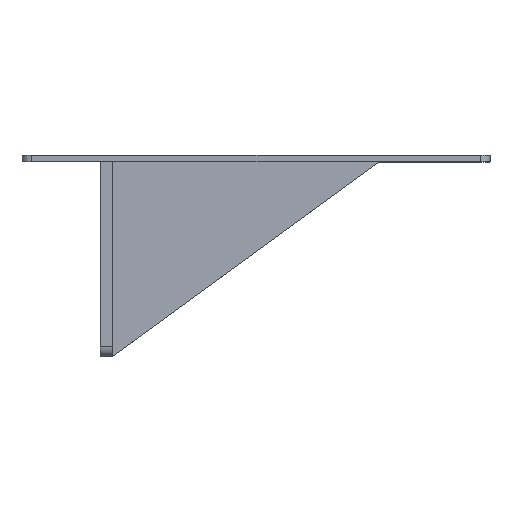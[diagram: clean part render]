
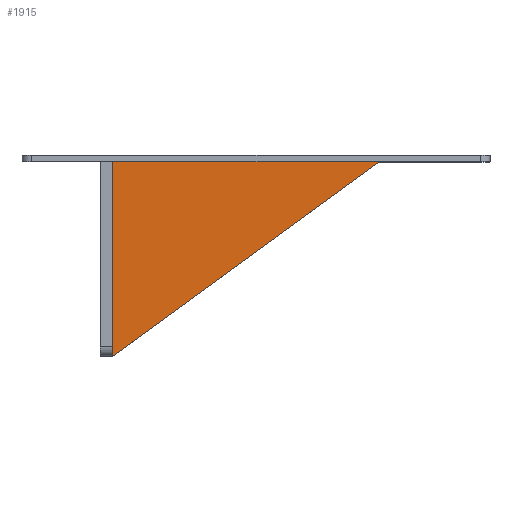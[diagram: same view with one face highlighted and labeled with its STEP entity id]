
A CAD part, top view. The second image highlights one B-rep face of the part: STEP entity #1915.
In plain terms, the highlighted planar face has unit normal (0, 0, 1).
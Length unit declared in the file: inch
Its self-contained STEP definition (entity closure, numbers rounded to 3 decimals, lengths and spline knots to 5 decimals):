
#178 = EDGE_CURVE ( 'NONE', #1416, #1254, #3228, .T. ) ;
#490 = DIRECTION ( 'NONE',  ( 0., 0., 1. ) ) ;
#570 = AXIS2_PLACEMENT_3D ( 'NONE', #1252, #490, #3270 ) ;
#678 = ORIENTED_EDGE ( 'NONE', *, *, #178, .T. ) ;
#772 = DIRECTION ( 'NONE',  ( 0.808, 0.59, 0. ) ) ;
#1000 = VECTOR ( 'NONE', #772, 39.37008 ) ;
#1011 = CARTESIAN_POINT ( 'NONE',  ( 0., -3.93701, 0.0625 ) ) ;
#1035 = CARTESIAN_POINT ( 'NONE',  ( 0., -3.93701, 0.0625 ) ) ;
#1051 = VECTOR ( 'NONE', #2074, 39.37008 ) ;
#1080 = CARTESIAN_POINT ( 'NONE',  ( 5.3937, 0., 0.0625 ) ) ;
#1226 = EDGE_CURVE ( 'NONE', #1254, #1570, #1451, .T. ) ;
#1252 = CARTESIAN_POINT ( 'NONE',  ( 0., 0., 0.0625 ) ) ;
#1254 = VERTEX_POINT ( 'NONE', #1011 ) ;
#1416 = VERTEX_POINT ( 'NONE', #3377 ) ;
#1451 = LINE ( 'NONE', #1035, #1000 ) ;
#1453 = LINE ( 'NONE', #2673, #2527 ) ;
#1570 = VERTEX_POINT ( 'NONE', #1080 ) ;
#1687 = CARTESIAN_POINT ( 'NONE',  ( 0., 0., 0.0625 ) ) ;
#1915 = ADVANCED_FACE ( 'NONE', ( #2755 ), #1976, .T. ) ;
#1976 = PLANE ( 'NONE',  #570 ) ;
#2074 = DIRECTION ( 'NONE',  ( 0., -1., 0. ) ) ;
#2527 = VECTOR ( 'NONE', #3145, 39.37008 ) ;
#2606 = ORIENTED_EDGE ( 'NONE', *, *, #1226, .T. ) ;
#2673 = CARTESIAN_POINT ( 'NONE',  ( 0., 0., 0.0625 ) ) ;
#2755 = FACE_OUTER_BOUND ( 'NONE', #3074, .T. ) ;
#2938 = EDGE_CURVE ( 'NONE', #1570, #1416, #1453, .T. ) ;
#3074 = EDGE_LOOP ( 'NONE', ( #678, #2606, #3220 ) ) ;
#3145 = DIRECTION ( 'NONE',  ( -1., 0., 0. ) ) ;
#3220 = ORIENTED_EDGE ( 'NONE', *, *, #2938, .T. ) ;
#3228 = LINE ( 'NONE', #1687, #1051 ) ;
#3270 = DIRECTION ( 'NONE',  ( 1., 0., 0. ) ) ;
#3377 = CARTESIAN_POINT ( 'NONE',  ( 0., 0., 0.0625 ) ) ;
